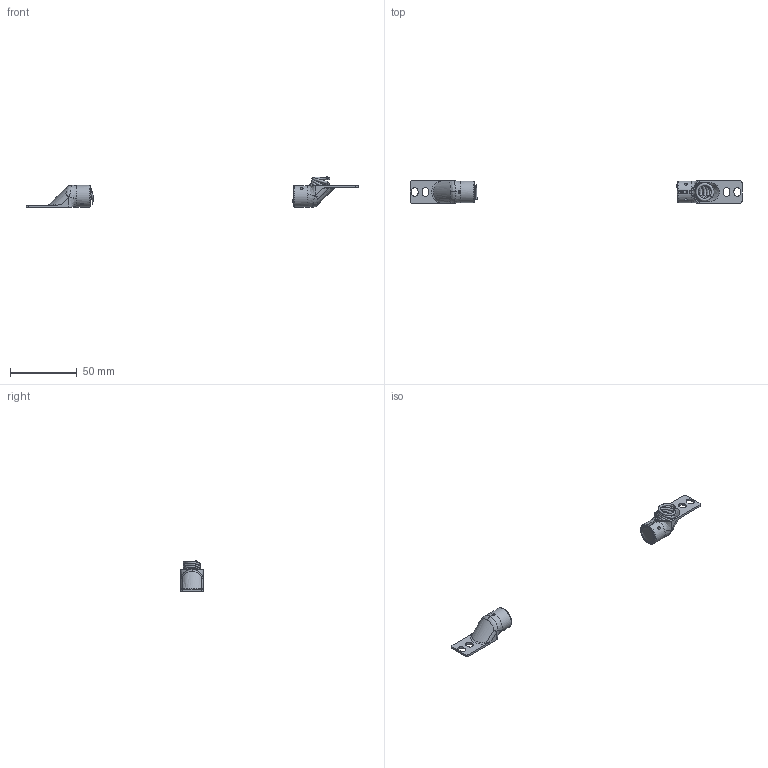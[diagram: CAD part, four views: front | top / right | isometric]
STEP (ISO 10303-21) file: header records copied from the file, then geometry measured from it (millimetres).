
FILE_DESCRIPTION((''),'2;1');
FILE_NAME('S:\Projekte\00 00 Datenarchiv\00.50- Kabelübergänge\M 11 92.stp','2011-08-17T10:05:20',('jsuarez'),(''),'Autodesk Inventor 2012','Autodesk Inventor 2012','');
FILE_SCHEMA(('AUTOMOTIVE_DESIGN { 1 0 10303 214 1 1 1 1 }'));
Length unit declared in the file: millimetre
Products named in the file (1): M 11 92
Bounding box: 248 x 17 x 22.62 mm (x, y, z)
Volume: 12367 mm3; surface area: 26823.8 mm2
Topology: 1 solids, 1 shells, 178 faces, 536 edges, 327 vertices
Faces by surface type: bspline 72, plane 44, cylinder 39, cone 11, revolution 5, sphere 5, torus 2
Full cylindrical faces by diameter (mm): 2 x2
Entity records: 21865 total; most frequent: CARTESIAN_POINT 17554, ORIENTED_EDGE 1050, DIRECTION 546, EDGE_CURVE 525, VERTEX_POINT 318, B_SPLINE_CURVE_WITH_KNOTS 293, EDGE_LOOP 219, AXIS2_PLACEMENT_3D 209
